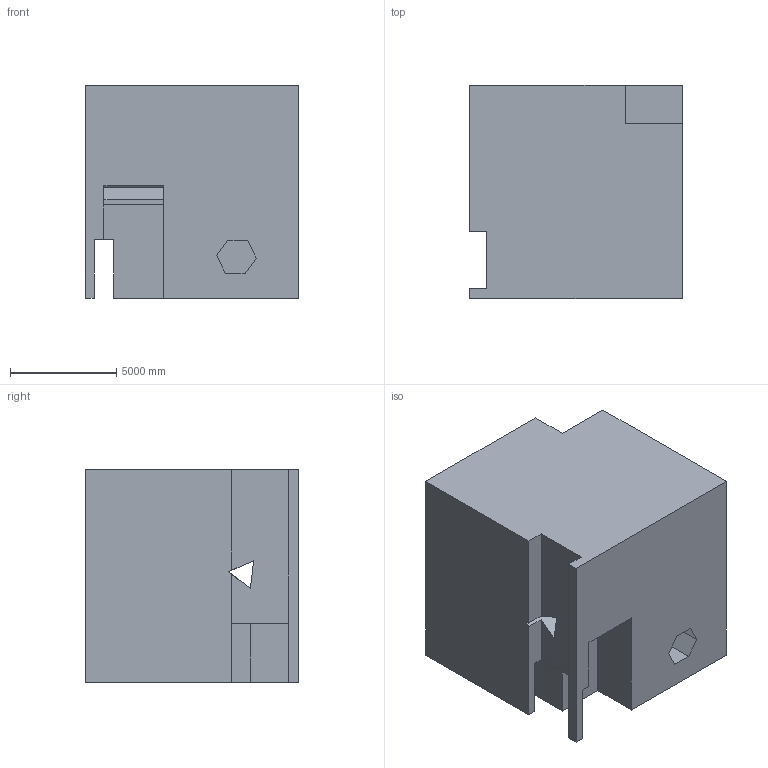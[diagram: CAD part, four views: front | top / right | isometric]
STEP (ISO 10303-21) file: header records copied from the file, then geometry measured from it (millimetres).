
FILE_DESCRIPTION (( 'STEP AP203' ), '1' );
FILE_NAME ('67.STEP', '2022-08-30T14:19:33', ( 'user' ), ( '' ), 'SwSTEP 2.0', 'SolidWorks 2021', '' );
FILE_SCHEMA (( 'CONFIG_CONTROL_DESIGN' ));
Length unit declared in the file: centimetre
Products named in the file (1): 67
Bounding box: 10000 x 10000 x 10000 mm (x, y, z)
Volume: 874621312527.7 mm3; surface area: 716221065.3 mm2
Topology: 1 solids, 1 shells, 37 faces, 105 edges, 70 vertices
Faces by surface type: plane 35, cylinder 2
Entity records: 1268 total; most frequent: CARTESIAN_POINT 213, ORIENTED_EDGE 210, DIRECTION 185, EDGE_CURVE 105, LINE 101, VECTOR 101, VERTEX_POINT 70, AXIS2_PLACEMENT_3D 42
